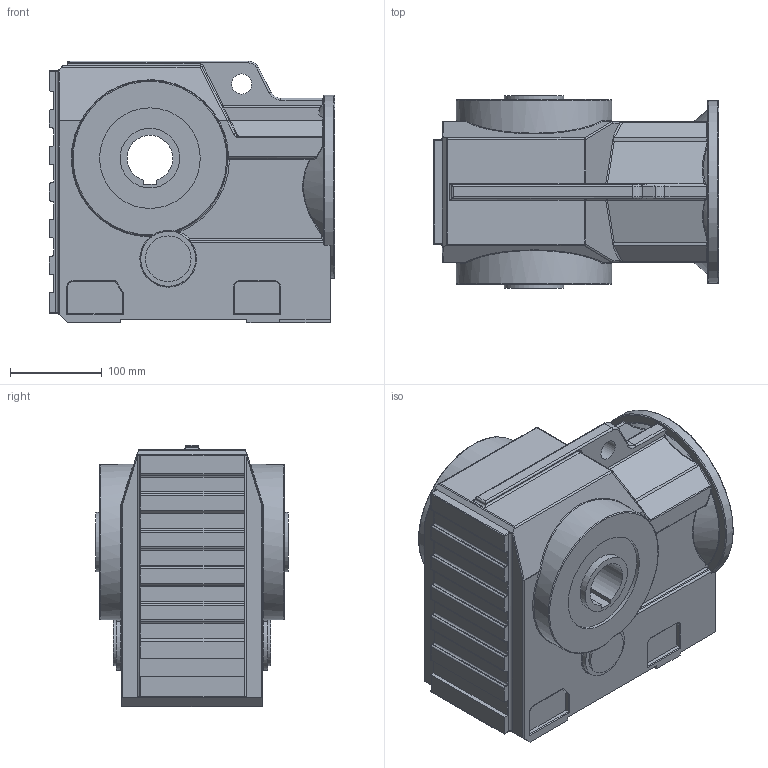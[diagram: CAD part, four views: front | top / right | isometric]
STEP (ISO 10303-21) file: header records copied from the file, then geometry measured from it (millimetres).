
FILE_DESCRIPTION((''),'2;1');
FILE_NAME('F:\PAWEŁ\ZLECENIA\2011 DualSystem\Przekładnie DK\001 Modele\DKAB70_\DK_70-_STEP\DK_A_70.stp','2012-06-26T18:58:54',('admin'),(''),'Autodesk Inventor 2009','Autodesk Inventor 2009','');
FILE_SCHEMA(('AUTOMOTIVE_DESIGN { 1 0 10303 214 1 1 1 1 }'));
Length unit declared in the file: millimetre
Products named in the file (1): DK_A_70
Bounding box: 312 x 210 x 286 mm (x, y, z)
Volume: 12446887.5 mm3; surface area: 427332.7 mm2
Topology: 1 solids, 1 shells, 427 faces, 1011 edges, 590 vertices
Faces by surface type: cylinder 169, plane 104, bspline 98, torus 40, sphere 12, cone 4
Full cylindrical faces by diameter (mm): 13.835 x4, 22 x1, 50 x1, 65 x1, 110 x1, 130 x1, 200 x1
Entity records: 16503 total; most frequent: CARTESIAN_POINT 6948, DIRECTION 1999, ORIENTED_EDGE 1968, EDGE_CURVE 984, AXIS2_PLACEMENT_3D 776, VERTEX_POINT 589, EDGE_LOOP 461, VECTOR 447
